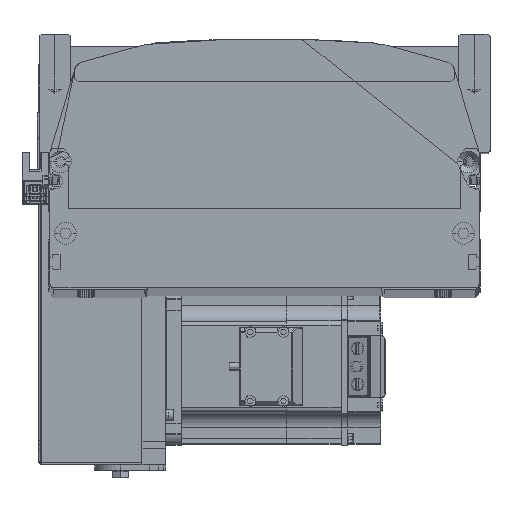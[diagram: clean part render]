
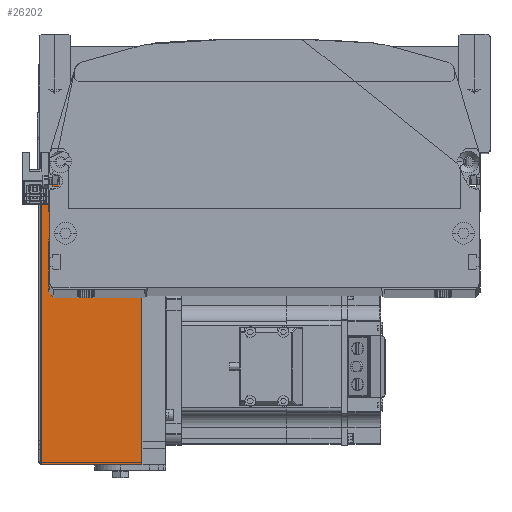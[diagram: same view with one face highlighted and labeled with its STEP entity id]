
A CAD part, top view. The second image highlights one B-rep face of the part: STEP entity #26202.
In plain terms, the highlighted planar face has unit normal (0, 0, 1) as drawn and (0, -1, 0) by its records, which use the part's own axes.
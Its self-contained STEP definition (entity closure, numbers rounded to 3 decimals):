
#2756 = VERTEX_POINT ( 'NONE', #23064 ) ;
#9215 = LINE ( 'NONE', #43158, #12275 ) ;
#9775 = LINE ( 'NONE', #18065, #16322 ) ;
#9784 = CARTESIAN_POINT ( 'NONE',  ( 0., -54., 63.8 ) ) ;
#12275 = VECTOR ( 'NONE', #21886, 1000. ) ;
#12995 = VECTOR ( 'NONE', #35152, 1000. ) ;
#13926 = PLANE ( 'NONE',  #38561 ) ;
#13935 = ORIENTED_EDGE ( 'NONE', *, *, #27465, .T. ) ;
#16322 = VECTOR ( 'NONE', #30724, 1000. ) ;
#18065 = CARTESIAN_POINT ( 'NONE',  ( 102.5, -54., 63.3 ) ) ;
#20879 = LINE ( 'NONE', #25000, #28709 ) ;
#21426 = DIRECTION ( 'NONE',  ( 0., 0., -1. ) ) ;
#21886 = DIRECTION ( 'NONE',  ( 0., 0., -1. ) ) ;
#22459 = CARTESIAN_POINT ( 'NONE',  ( 0., -54., 12. ) ) ;
#23064 = CARTESIAN_POINT ( 'NONE',  ( -102.5, -54., 63.3 ) ) ;
#24779 = EDGE_CURVE ( 'NONE', #2756, #29996, #9775, .T. ) ;
#25000 = CARTESIAN_POINT ( 'NONE',  ( -102.5, -54., 63.3 ) ) ;
#26202 = ADVANCED_FACE ( 'NONE', ( #30193 ), #13926, .F. ) ;
#26308 = DIRECTION ( 'NONE',  ( 0., 0., -1. ) ) ;
#27465 = EDGE_CURVE ( 'NONE', #52740, #30755, #47580, .T. ) ;
#28709 = VECTOR ( 'NONE', #21426, 1000. ) ;
#29209 = EDGE_LOOP ( 'NONE', ( #41991, #33095, #13935, #40748 ) ) ;
#29996 = VERTEX_POINT ( 'NONE', #50934 ) ;
#30193 = FACE_OUTER_BOUND ( 'NONE', #29209, .T. ) ;
#30724 = DIRECTION ( 'NONE',  ( 1., 0., 0. ) ) ;
#30755 = VERTEX_POINT ( 'NONE', #50213 ) ;
#33095 = ORIENTED_EDGE ( 'NONE', *, *, #48718, .T. ) ;
#35152 = DIRECTION ( 'NONE',  ( 1., 0., 0. ) ) ;
#38539 = DIRECTION ( 'NONE',  ( 0., 1., 0. ) ) ;
#38561 = AXIS2_PLACEMENT_3D ( 'NONE', #9784, #38539, #26308 ) ;
#40748 = ORIENTED_EDGE ( 'NONE', *, *, #41890, .F. ) ;
#41890 = EDGE_CURVE ( 'NONE', #29996, #30755, #9215, .T. ) ;
#41991 = ORIENTED_EDGE ( 'NONE', *, *, #24779, .F. ) ;
#43158 = CARTESIAN_POINT ( 'NONE',  ( 102.5, -54., 63.3 ) ) ;
#45675 = CARTESIAN_POINT ( 'NONE',  ( -102.5, -54., 12. ) ) ;
#47580 = LINE ( 'NONE', #22459, #12995 ) ;
#48718 = EDGE_CURVE ( 'NONE', #2756, #52740, #20879, .T. ) ;
#50213 = CARTESIAN_POINT ( 'NONE',  ( 102.5, -54., 12. ) ) ;
#50934 = CARTESIAN_POINT ( 'NONE',  ( 102.5, -54., 63.3 ) ) ;
#52740 = VERTEX_POINT ( 'NONE', #45675 ) ;
